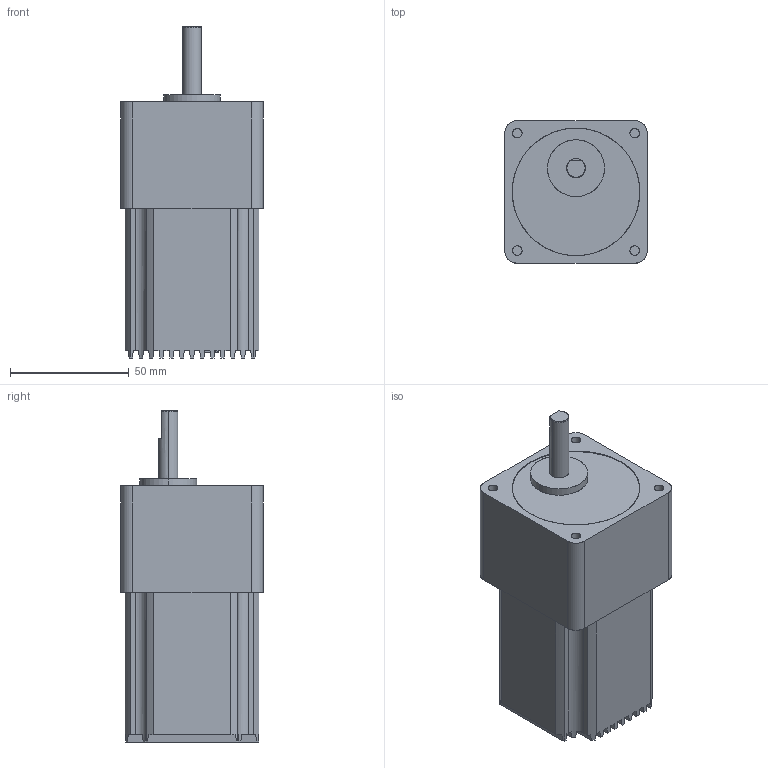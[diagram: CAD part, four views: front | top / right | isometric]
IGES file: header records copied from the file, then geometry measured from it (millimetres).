
Start section: SolidWorks IGES file using analytic representation for surfaces
Global section: file name: C:\Documents and Settings\6263\デスクトップ\SSA-TR-56D1SD.IGS; native system: SolidWorks 2009; preprocessor: SolidWorks 2009; author: 6263; date: 101104.162231; units: millimetre
Bounding box: 60 x 60 x 140 mm (x, y, z)
Surface area: 35442.8 mm2 (no closed solid volume)
Topology: 0 solids, 0 shells, 144 faces, 1392 edges, 1392 vertices
Faces by surface type: bspline 107, revolution 37
